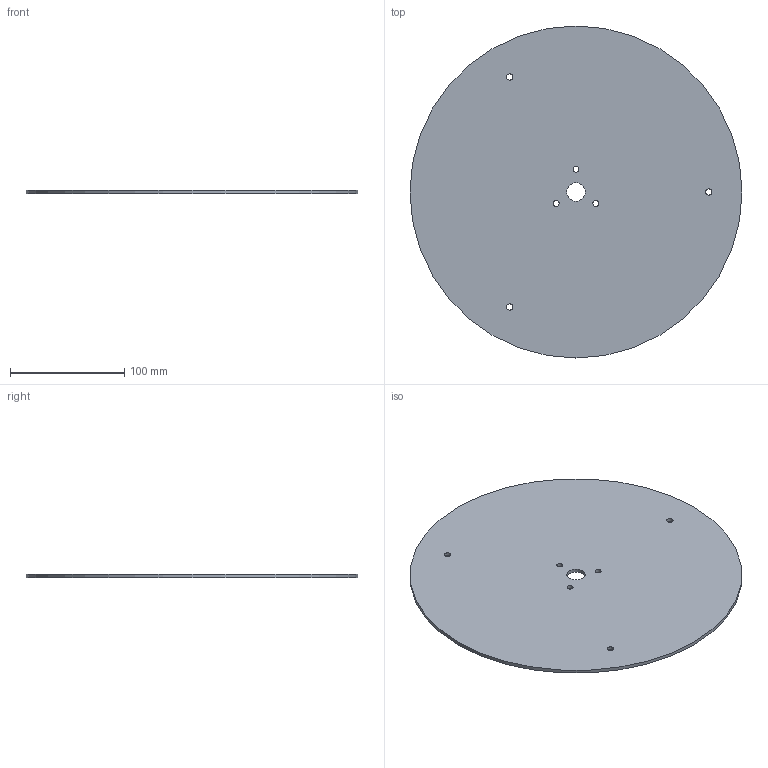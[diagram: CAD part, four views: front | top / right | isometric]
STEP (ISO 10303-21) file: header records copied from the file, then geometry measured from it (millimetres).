
FILE_DESCRIPTION(('Open CASCADE Model'),'2;1');
FILE_NAME('Open CASCADE Shape Model','2026-09-16T16:54:27',('Author'),( 'Open CASCADE'),'Open CASCADE STEP processor 7.8','Open CASCADE 7.8' ,'Unknown');
FILE_SCHEMA(('AUTOMOTIVE_DESIGN { 1 0 10303 214 1 1 1 1 }'));
Length unit declared in the file: millimetre
Products named in the file (1): Open CASCADE STEP translator 7.8 14
Bounding box: 290 x 290 x 3 mm (x, y, z)
Volume: 197147.8 mm3; surface area: 134618.4 mm2
Topology: 1 solids, 1 shells, 10 faces, 24 edges, 16 vertices
Faces by surface type: cylinder 8, plane 2
Full cylindrical faces by diameter (mm): 5.2 x3, 5.5 x3, 16 x1, 290 x1
Entity records: 693 total; most frequent: CARTESIAN_POINT 177, DIRECTION 97, ORIENTED_EDGE 48, PCURVE 48, DEFINITIONAL_REPRESENTATION 48, LINE 40, VECTOR 40, AXIS2_PLACEMENT_3D 27
